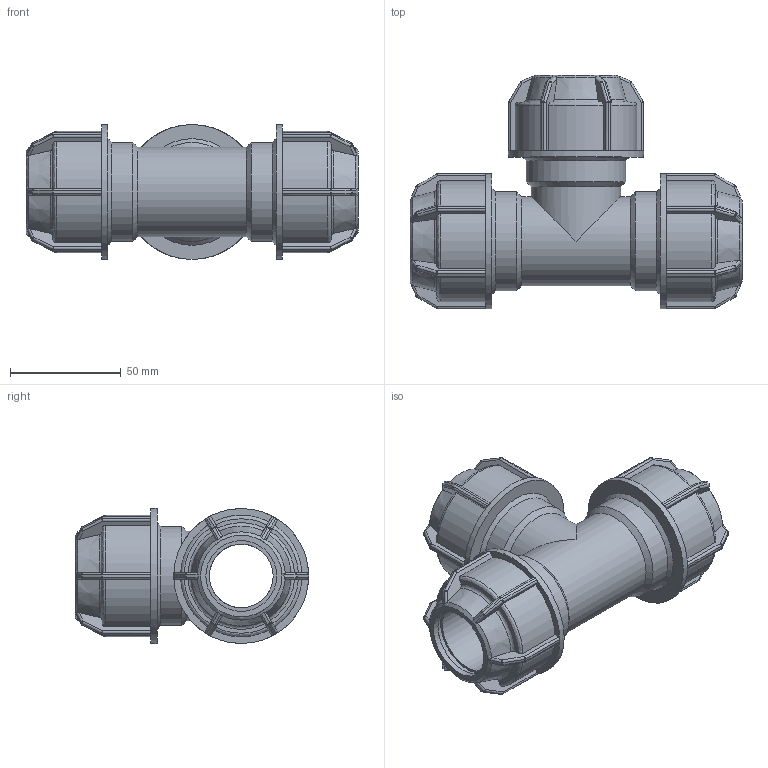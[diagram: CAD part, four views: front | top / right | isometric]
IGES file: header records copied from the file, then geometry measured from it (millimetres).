
Global section: file name: 140400032.ipt; native system: Autodesk Inventor 2015; preprocessor: unknown; author: KIM; date: 20180409.131031; units: millimetre
Bounding box: 150 x 105.5 x 61 mm (x, y, z)
Volume: 209788.2 mm3; surface area: 63584.9 mm2
Topology: 1 solids, 1 shells, 605 faces, 1458 edges, 849 vertices
Faces by surface type: plane 289, cylinder 170, sphere 72, revolution 50, cone 24
Full cylindrical faces by diameter (mm): 40.32 x2, 44.8 x3, 61 x3
